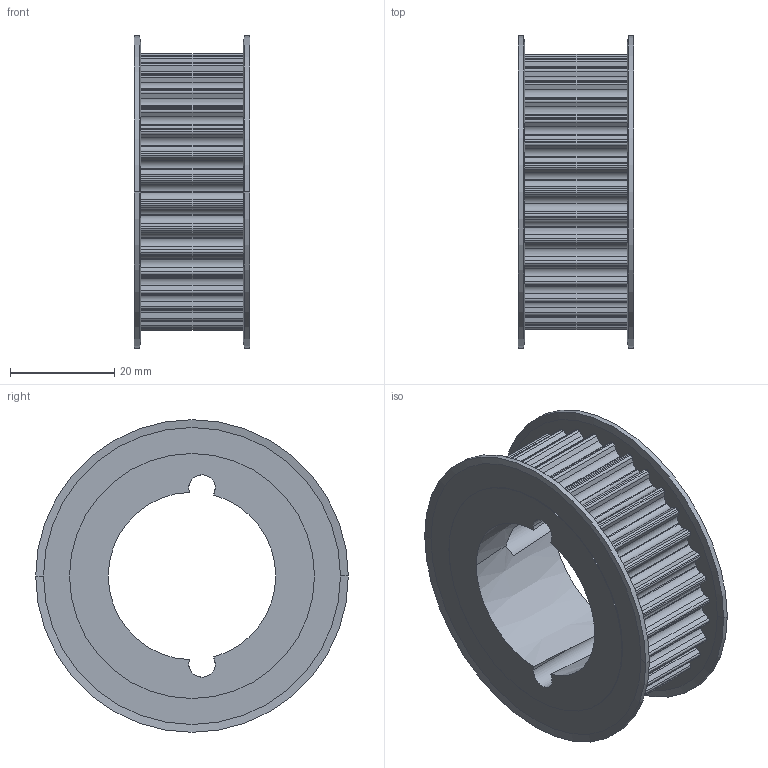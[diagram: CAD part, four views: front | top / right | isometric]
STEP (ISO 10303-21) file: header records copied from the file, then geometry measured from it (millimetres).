
FILE_DESCRIPTION( ( '' ), '1' );
FILE_NAME( 'C:/Users/Stangenbergd/Documents/CAD_Step/1/17277334.stp', '2021-10-19T10:06:04', ( '' ), ( '' ), ' ', ' ', ' ' );
FILE_SCHEMA( ( 'CONFIG_CONTROL_DESIGN' ) );
Length unit declared in the file: millimetre
Products named in the file (1): 1
Bounding box: 22.12 x 60 x 60 mm (x, y, z)
Volume: 25452.9 mm3; surface area: 12997.8 mm2
Topology: 1 solids, 1 shells, 308 faces, 899 edges, 595 vertices
Faces by surface type: cylinder 186, plane 108, cone 14
Entity records: 10489 total; most frequent: CARTESIAN_POINT 1933, DIRECTION 1887, ORIENTED_EDGE 1794, EDGE_CURVE 897, AXIS2_PLACEMENT_3D 693, VERTEX_POINT 595, LINE 501, VECTOR 501
